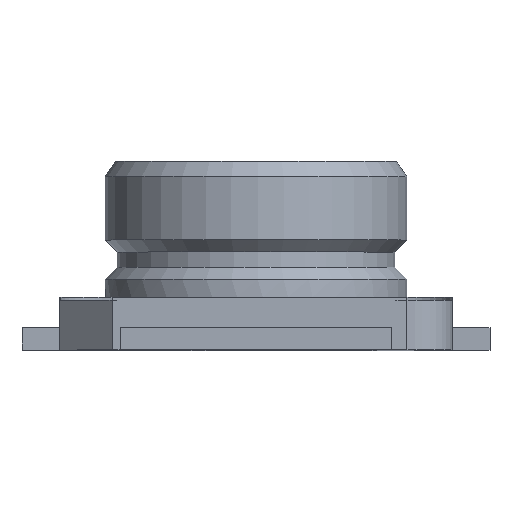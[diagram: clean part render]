
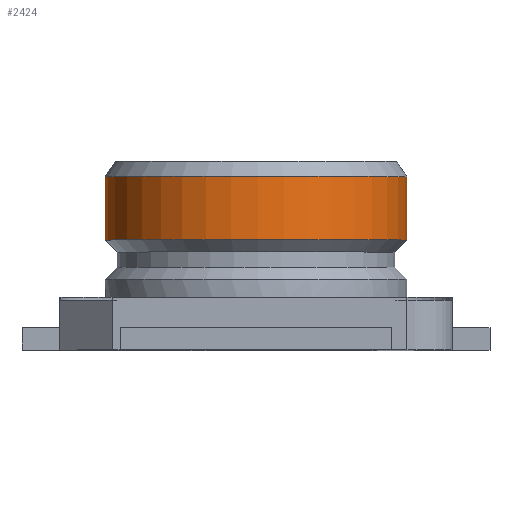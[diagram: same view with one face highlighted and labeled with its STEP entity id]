
A CAD part, top view. The second image highlights one B-rep face of the part: STEP entity #2424.
In plain terms, the highlighted cylindrical face has radius 1 mm (diameter 2 mm), a partial arc.
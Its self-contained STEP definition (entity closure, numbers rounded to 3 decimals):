
#29 = CIRCLE ( 'NONE', #676, 1. ) ;
#100 = ORIENTED_EDGE ( 'NONE', *, *, #1588, .F. ) ;
#200 = CARTESIAN_POINT ( 'NONE',  ( -1., 0.73, 0.02 ) ) ;
#245 = CARTESIAN_POINT ( 'NONE',  ( 0., 0.73, 0. ) ) ;
#277 = DIRECTION ( 'NONE',  ( 1., 0., 0. ) ) ;
#386 = CARTESIAN_POINT ( 'NONE',  ( 0., 1.15, 0. ) ) ;
#542 = FACE_OUTER_BOUND ( 'NONE', #1087, .T. ) ;
#637 = DIRECTION ( 'NONE',  ( -1., 0., 0. ) ) ;
#642 = LINE ( 'NONE', #2070, #2808 ) ;
#676 = AXIS2_PLACEMENT_3D ( 'NONE', #245, #911, #1371 ) ;
#692 = VERTEX_POINT ( 'NONE', #723 ) ;
#723 = CARTESIAN_POINT ( 'NONE',  ( -1., 1.15, 0.02 ) ) ;
#779 = CARTESIAN_POINT ( 'NONE',  ( 0., 1.25, 0. ) ) ;
#911 = DIRECTION ( 'NONE',  ( 0., -1., 0. ) ) ;
#969 = VERTEX_POINT ( 'NONE', #1739 ) ;
#1008 = CYLINDRICAL_SURFACE ( 'NONE', #2022, 1. ) ;
#1087 = EDGE_LOOP ( 'NONE', ( #1728, #2340, #1776, #100 ) ) ;
#1371 = DIRECTION ( 'NONE',  ( 1., 0., 0. ) ) ;
#1480 = DIRECTION ( 'NONE',  ( 0., -1., 0. ) ) ;
#1500 = EDGE_CURVE ( 'NONE', #969, #2554, #2032, .T. ) ;
#1588 = EDGE_CURVE ( 'NONE', #2554, #2341, #29, .T. ) ;
#1728 = ORIENTED_EDGE ( 'NONE', *, *, #1500, .F. ) ;
#1739 = CARTESIAN_POINT ( 'NONE',  ( 1., 1.15, 0. ) ) ;
#1773 = CARTESIAN_POINT ( 'NONE',  ( 1., 0.73, 0. ) ) ;
#1776 = ORIENTED_EDGE ( 'NONE', *, *, #2280, .T. ) ;
#1798 = DIRECTION ( 'NONE',  ( 0., -1., 0. ) ) ;
#1801 = DIRECTION ( 'NONE',  ( 0., -1., 0. ) ) ;
#1836 = DIRECTION ( 'NONE',  ( 0., -1., 0. ) ) ;
#2022 = AXIS2_PLACEMENT_3D ( 'NONE', #779, #1480, #277 ) ;
#2032 = LINE ( 'NONE', #2767, #2311 ) ;
#2070 = CARTESIAN_POINT ( 'NONE',  ( -1., 1.25, 0.02 ) ) ;
#2269 = CIRCLE ( 'NONE', #2916, 1. ) ;
#2280 = EDGE_CURVE ( 'NONE', #692, #2341, #642, .T. ) ;
#2311 = VECTOR ( 'NONE', #1798, 1000. ) ;
#2340 = ORIENTED_EDGE ( 'NONE', *, *, #2552, .T. ) ;
#2341 = VERTEX_POINT ( 'NONE', #200 ) ;
#2424 = ADVANCED_FACE ( 'NONE', ( #542 ), #1008, .T. ) ;
#2552 = EDGE_CURVE ( 'NONE', #969, #692, #2269, .T. ) ;
#2554 = VERTEX_POINT ( 'NONE', #1773 ) ;
#2767 = CARTESIAN_POINT ( 'NONE',  ( 1., 1.25, 0. ) ) ;
#2808 = VECTOR ( 'NONE', #1836, 1000. ) ;
#2916 = AXIS2_PLACEMENT_3D ( 'NONE', #386, #1801, #637 ) ;
